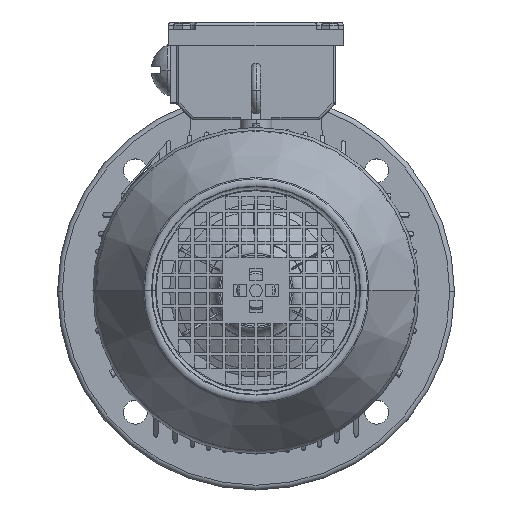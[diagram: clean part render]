
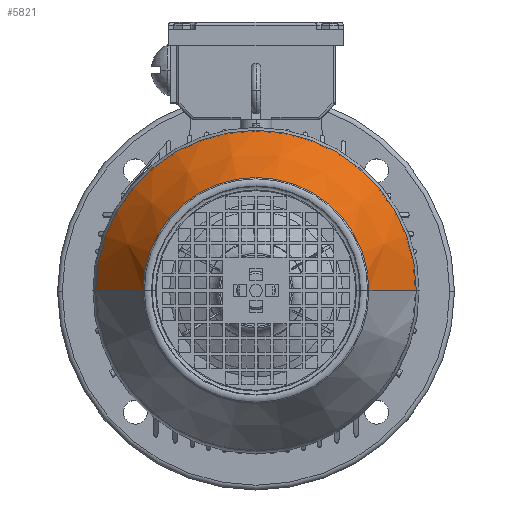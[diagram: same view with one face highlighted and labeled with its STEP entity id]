
A CAD part, top view. The second image highlights one B-rep face of the part: STEP entity #5821.
In plain terms, the highlighted conical face has half-angle 30 degrees and reference radius 100.958 mm.
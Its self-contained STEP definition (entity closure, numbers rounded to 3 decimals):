
#4174 = EDGE_CURVE ( 'NONE', #8185, #8186, #37507, .T. ) ;
#4188 = EDGE_CURVE ( 'NONE', #8180, #8185, #37523, .T. ) ;
#4193 = EDGE_CURVE ( 'NONE', #8181, #8186, #37529, .T. ) ;
#4254 = EDGE_CURVE ( 'NONE', #8180, #8181, #37606, .T. ) ;
#5821 = ADVANCED_FACE ( 'NONE', ( #38191 ), #38226, .T. ) ;
#7441 = EDGE_LOOP ( 'NONE', ( #8106, #8107, #8108, #8109 ) ) ;
#8106 = ORIENTED_EDGE ( 'NONE', *, *, #4254, .T. ) ;
#8107 = ORIENTED_EDGE ( 'NONE', *, *, #4193, .T. ) ;
#8108 = ORIENTED_EDGE ( 'NONE', *, *, #4174, .F. ) ;
#8109 = ORIENTED_EDGE ( 'NONE', *, *, #4188, .F. ) ;
#8180 = VERTEX_POINT ( 'NONE', #12878 ) ;
#8181 = VERTEX_POINT ( 'NONE', #12879 ) ;
#8185 = VERTEX_POINT ( 'NONE', #12883 ) ;
#8186 = VERTEX_POINT ( 'NONE', #12884 ) ;
#9577 = DIRECTION ( 'NONE',  ( -1., 0., 0. ) ) ;
#9579 = DIRECTION ( 'NONE',  ( 0., 0., -1. ) ) ;
#9581 = CARTESIAN_POINT ( 'NONE',  ( 0., 0., 150.379 ) ) ;
#12878 = CARTESIAN_POINT ( 'NONE',  ( -71.155, 0., 202. ) ) ;
#12879 = CARTESIAN_POINT ( 'NONE',  ( 71.155, 0., 202. ) ) ;
#12883 = CARTESIAN_POINT ( 'NONE',  ( -100.958, 0., 150.379 ) ) ;
#12884 = CARTESIAN_POINT ( 'NONE',  ( 100.958, 0., 150.379 ) ) ;
#37087 = CARTESIAN_POINT ( 'NONE',  ( 0., 0., 150.379 ) ) ;
#37088 = DIRECTION ( 'NONE',  ( 0., 0., -1. ) ) ;
#37089 = DIRECTION ( 'NONE',  ( -1., 0., 0. ) ) ;
#37151 = DIRECTION ( 'NONE',  ( -0.5, 0., -0.866 ) ) ;
#37152 = CARTESIAN_POINT ( 'NONE',  ( -100.958, 0., 150.379 ) ) ;
#37164 = DIRECTION ( 'NONE',  ( 0.5, 0., -0.866 ) ) ;
#37167 = CARTESIAN_POINT ( 'NONE',  ( 100.958, 0., 150.379 ) ) ;
#37507 = CIRCLE ( 'NONE', #43497, 100.958 ) ;
#37523 = LINE ( 'NONE', #37152, #37526 ) ;
#37526 = VECTOR ( 'NONE', #37151, 1000. ) ;
#37529 = LINE ( 'NONE', #37167, #37533 ) ;
#37533 = VECTOR ( 'NONE', #37164, 1000. ) ;
#37606 = CIRCLE ( 'NONE', #43541, 71.155 ) ;
#38191 = FACE_OUTER_BOUND ( 'NONE', #7441, .T. ) ;
#38226 = CONICAL_SURFACE ( 'NONE', #43743, 100.958, 0.524 ) ;
#38717 = CARTESIAN_POINT ( 'NONE',  ( 0., 0., 202. ) ) ;
#38718 = DIRECTION ( 'NONE',  ( 0., 0., -1. ) ) ;
#38719 = DIRECTION ( 'NONE',  ( -1., 0., 0. ) ) ;
#43497 = AXIS2_PLACEMENT_3D ( 'NONE', #37087, #37088, #37089 ) ;
#43541 = AXIS2_PLACEMENT_3D ( 'NONE', #38717, #38718, #38719 ) ;
#43743 = AXIS2_PLACEMENT_3D ( 'NONE', #9581, #9579, #9577 ) ;
